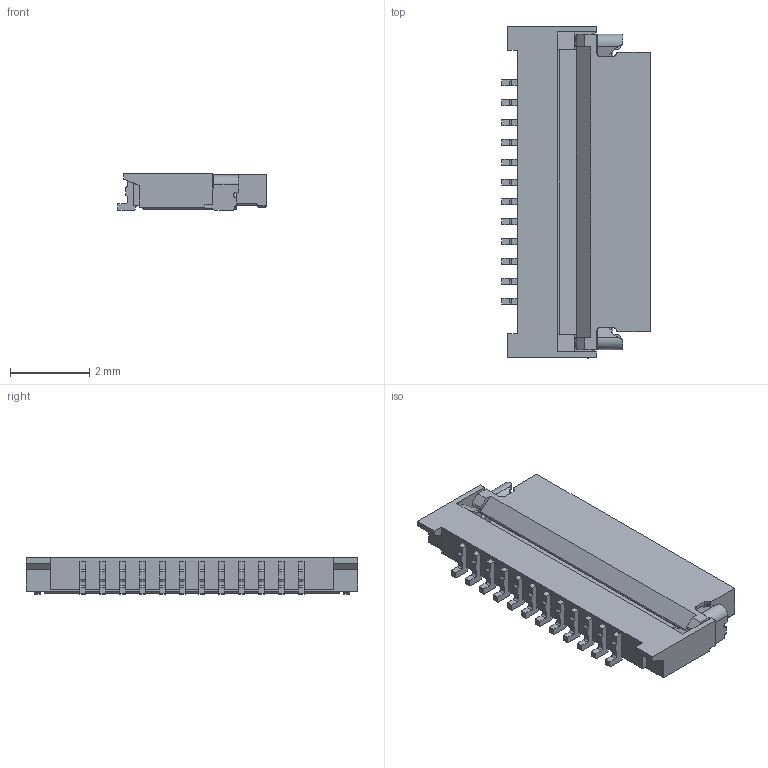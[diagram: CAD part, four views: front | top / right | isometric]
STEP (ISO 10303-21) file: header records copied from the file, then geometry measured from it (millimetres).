
FILE_DESCRIPTION (( 'STEP AP214' ), '1' );
FILE_NAME ('006809612010.STEP', '2023-02-21T02:37:07', ( '' ), ( '' ), 'SwSTEP 2.0', 'SolidWorks 2021', '' );
FILE_SCHEMA (( 'AUTOMOTIVE_DESIGN' ));
Length unit declared in the file: millimetre
Products named in the file (1): 006809612010
Bounding box: 3.75 x 8.37 x 0.93 mm (x, y, z)
Volume: 15.3 mm3; surface area: 113.6 mm2
Topology: 1 solids, 1 shells, 425 faces, 1284 edges, 859 vertices
Faces by surface type: plane 300, cylinder 119, cone 4, sphere 2
Entity records: 14739 total; most frequent: CARTESIAN_POINT 3624, ORIENTED_EDGE 2568, DIRECTION 2004, EDGE_CURVE 1284, VERTEX_POINT 859, VECTOR 752, LINE 752, AXIS2_PLACEMENT_3D 626
